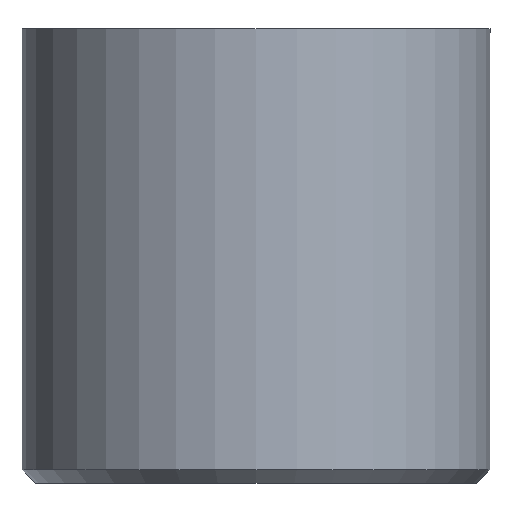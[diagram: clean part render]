
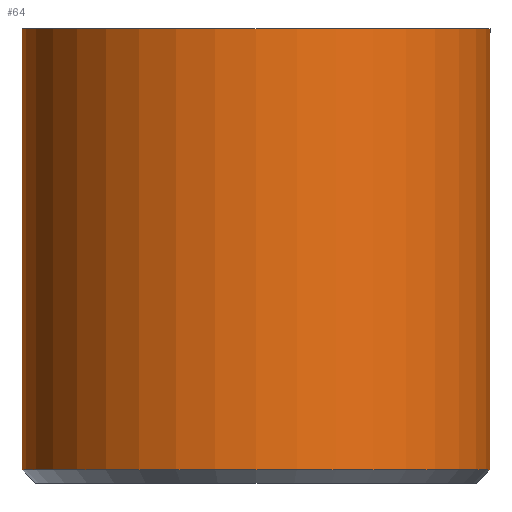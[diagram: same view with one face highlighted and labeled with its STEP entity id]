
A CAD part, front view. The second image highlights one B-rep face of the part: STEP entity #64.
In plain terms, the highlighted cylindrical face has radius 17.5 mm (diameter 35 mm), a partial arc.
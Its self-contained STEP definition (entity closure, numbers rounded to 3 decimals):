
#26 = CYLINDRICAL_SURFACE ( 'NONE', #177, 17.5 ) ;
#64 = ADVANCED_FACE ( 'NONE', ( #455 ), #26, .T. ) ;
#67 = EDGE_CURVE ( 'NONE', #336, #167, #134, .T. ) ;
#73 = DIRECTION ( 'NONE',  ( -1., 0., 0. ) ) ;
#83 = AXIS2_PLACEMENT_3D ( 'NONE', #351, #466, #387 ) ;
#107 = CARTESIAN_POINT ( 'NONE',  ( -17.5, 0., -18. ) ) ;
#122 = CARTESIAN_POINT ( 'NONE',  ( 17.5, 0., -34. ) ) ;
#125 = CARTESIAN_POINT ( 'NONE',  ( 17.5, 0., -18. ) ) ;
#134 = LINE ( 'NONE', #125, #162 ) ;
#162 = VECTOR ( 'NONE', #458, 1000. ) ;
#167 = VERTEX_POINT ( 'NONE', #122 ) ;
#177 = AXIS2_PLACEMENT_3D ( 'NONE', #281, #382, #304 ) ;
#209 = CARTESIAN_POINT ( 'NONE',  ( -17.5, 0., -1. ) ) ;
#224 = VERTEX_POINT ( 'NONE', #209 ) ;
#225 = DIRECTION ( 'NONE',  ( 0., 0., -1. ) ) ;
#226 = CIRCLE ( 'NONE', #354, 17.5 ) ;
#242 = LINE ( 'NONE', #107, #294 ) ;
#243 = EDGE_CURVE ( 'NONE', #167, #453, #305, .T. ) ;
#281 = CARTESIAN_POINT ( 'NONE',  ( 0., 0., -18. ) ) ;
#287 = CARTESIAN_POINT ( 'NONE',  ( 17.5, 0., -1. ) ) ;
#294 = VECTOR ( 'NONE', #225, 1000. ) ;
#300 = CARTESIAN_POINT ( 'NONE',  ( -17.5, 0., -34. ) ) ;
#304 = DIRECTION ( 'NONE',  ( -1., 0., 0. ) ) ;
#305 = CIRCLE ( 'NONE', #83, 17.5 ) ;
#311 = ORIENTED_EDGE ( 'NONE', *, *, #67, .F. ) ;
#318 = ORIENTED_EDGE ( 'NONE', *, *, #345, .F. ) ;
#324 = CARTESIAN_POINT ( 'NONE',  ( 0., 0., -1. ) ) ;
#336 = VERTEX_POINT ( 'NONE', #287 ) ;
#345 = EDGE_CURVE ( 'NONE', #224, #336, #226, .T. ) ;
#351 = CARTESIAN_POINT ( 'NONE',  ( 0., 0., -34. ) ) ;
#354 = AXIS2_PLACEMENT_3D ( 'NONE', #324, #472, #73 ) ;
#367 = EDGE_CURVE ( 'NONE', #224, #453, #242, .T. ) ;
#373 = EDGE_LOOP ( 'NONE', ( #311, #318, #468, #440 ) ) ;
#382 = DIRECTION ( 'NONE',  ( 0., 0., -1. ) ) ;
#387 = DIRECTION ( 'NONE',  ( -1., 0., 0. ) ) ;
#440 = ORIENTED_EDGE ( 'NONE', *, *, #243, .F. ) ;
#453 = VERTEX_POINT ( 'NONE', #300 ) ;
#455 = FACE_OUTER_BOUND ( 'NONE', #373, .T. ) ;
#458 = DIRECTION ( 'NONE',  ( 0., 0., -1. ) ) ;
#466 = DIRECTION ( 'NONE',  ( 0., 0., -1. ) ) ;
#468 = ORIENTED_EDGE ( 'NONE', *, *, #367, .T. ) ;
#472 = DIRECTION ( 'NONE',  ( 0., 0., 1. ) ) ;
